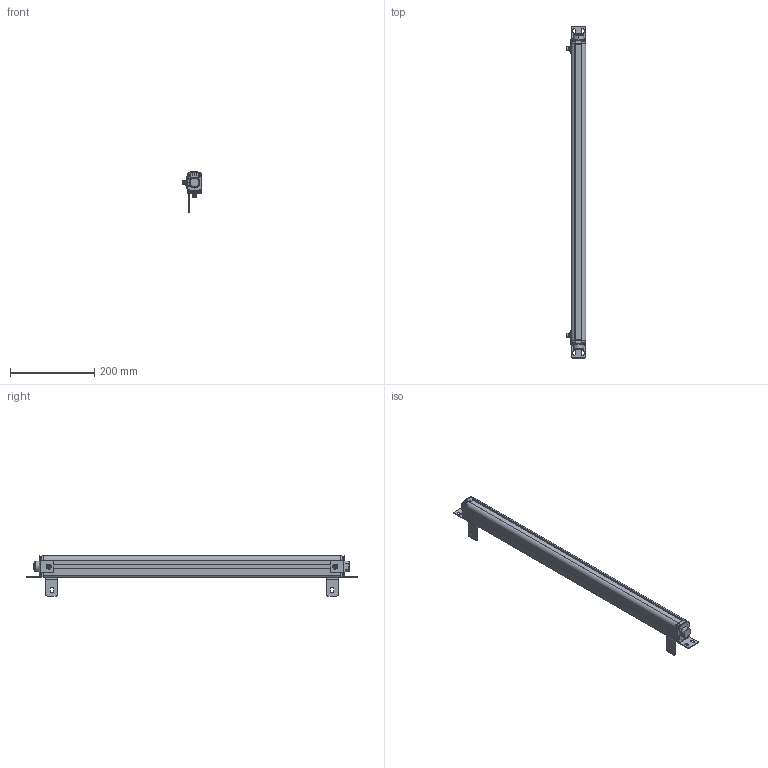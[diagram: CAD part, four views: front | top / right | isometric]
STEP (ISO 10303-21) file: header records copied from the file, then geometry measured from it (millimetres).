
FILE_DESCRIPTION((''),'2;1');
FILE_NAME('ESN--000_ASM','2021-08-10T21:24:55',('18720616900'),(''),'CREO PARAMETRIC BY PTC INC, 2019010','CREO PARAMETRIC BY PTC INC, 2019010','');
FILE_SCHEMA(('CONFIG_CONTROL_DESIGN'));
Products named in the file (22): 00; 000; _0002; _0003; _0004; 5000; 5--0001; ESN_50001_ASM; ST-3-120001; L10001; M6-8--0001; M6-1--00; M6-1-00; M6-80001_ASM; L1--0001_ASM; H1--000; H1--0003_ASM; H1--0001_ASM; ESN--000_ASM
Assembly tree (35 placements, depth 4):
  ESN--000_ASM
    00
    000
    _0002
    _0003
    _0004
    000
    ESN_50001_ASM
      5000
      5--0001  x5
    ST-3-120001  x8
    L1--0001_ASM  x2
      L10001
      M6-80001_ASM
        M6-8--0001
        M6-1--00
        M6-1-00
        00
    H1--0003_ASM
      H1--000
      M6-80001_ASM
        M6-8--0001
        M6-1--00
        M6-1-00
        00
    H1--0001_ASM
      H1--000
      M6-80001_ASM
        M6-8--0001
        M6-1--00
        M6-1-00
        00
Bounding box: 46.5 x 787 x 94.95 mm (x, y, z)
Volume: 1101390.6 mm3; surface area: 246904.1 mm2
Topology: 40 solids, 40 shells, 1785 faces, 4708 edges, 3012 vertices
Faces by surface type: plane 583, cylinder 416, bspline 362, cone 291, torus 107, sphere 26
Entity records: 48222 total; most frequent: CARTESIAN_POINT 24957, ORIENTED_EDGE 5136, DIRECTION 4189, EDGE_CURVE 2568, VERTEX_POINT 1669, AXIS2_PLACEMENT_3D 1488, VECTOR 1213, LINE 1213
